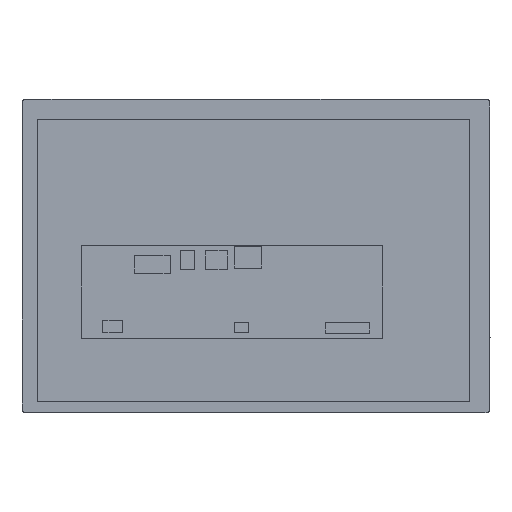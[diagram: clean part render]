
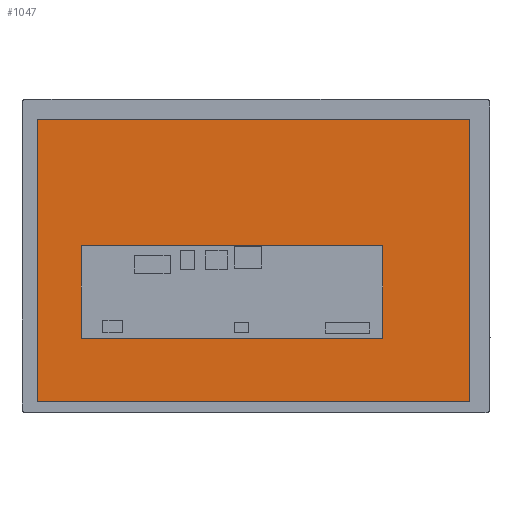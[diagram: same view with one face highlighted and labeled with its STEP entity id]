
A CAD part, top view. The second image highlights one B-rep face of the part: STEP entity #1047.
In plain terms, the highlighted planar face has unit normal (0, 0, 1).
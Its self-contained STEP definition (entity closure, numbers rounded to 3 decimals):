
#101=B_SPLINE_CURVE_WITH_KNOTS('',3,(#2857,#2858,#2859,#2860),
 .UNSPECIFIED.,.F.,.F.,(4,4),(0.,1.),.UNSPECIFIED.);
#103=B_SPLINE_CURVE_WITH_KNOTS('',3,(#2872,#2873,#2874,#2875),
 .UNSPECIFIED.,.F.,.F.,(4,4),(0.,1.),.UNSPECIFIED.);
#105=B_SPLINE_CURVE_WITH_KNOTS('',3,(#2884,#2885,#2886,#2887),
 .UNSPECIFIED.,.F.,.F.,(4,4),(0.,1.),.UNSPECIFIED.);
#107=B_SPLINE_CURVE_WITH_KNOTS('',3,(#2896,#2897,#2898,#2899),
 .UNSPECIFIED.,.F.,.F.,(4,4),(0.,1.),.UNSPECIFIED.);
#956=FACE_OUTER_BOUND('',#1241,.T.);
#1047=ADVANCED_FACE('',(#956),#1136,.F.);
#1136=PLANE('',#2308);
#1241=EDGE_LOOP('',(#1492,#1493,#1494,#1495));
#1492=ORIENTED_EDGE('',*,*,#1917,.T.);
#1493=ORIENTED_EDGE('',*,*,#1921,.T.);
#1494=ORIENTED_EDGE('',*,*,#1924,.T.);
#1495=ORIENTED_EDGE('',*,*,#1927,.T.);
#1754=VERTEX_POINT('',#2861);
#1755=VERTEX_POINT('',#2862);
#1758=VERTEX_POINT('',#2876);
#1760=VERTEX_POINT('',#2888);
#1917=EDGE_CURVE('',#1754,#1755,#101,.T.);
#1921=EDGE_CURVE('',#1755,#1758,#103,.T.);
#1924=EDGE_CURVE('',#1758,#1760,#105,.T.);
#1927=EDGE_CURVE('',#1760,#1754,#107,.T.);
#2308=AXIS2_PLACEMENT_3D('',#2906,#2538,#2539);
#2538=DIRECTION('',(0.,0.,-1.));
#2539=DIRECTION('',(-1.,0.,0.));
#2857=CARTESIAN_POINT('',(1544.762,94.076,-1.6));
#2858=CARTESIAN_POINT('',(1468.696,94.076,-1.6));
#2859=CARTESIAN_POINT('',(1392.629,94.076,-1.6));
#2860=CARTESIAN_POINT('',(1316.562,94.076,-1.6));
#2861=CARTESIAN_POINT('',(1544.762,94.076,-1.6));
#2862=CARTESIAN_POINT('',(1316.562,94.076,-1.6));
#2872=CARTESIAN_POINT('',(1316.562,94.076,-1.6));
#2873=CARTESIAN_POINT('',(1316.562,44.46,-1.6));
#2874=CARTESIAN_POINT('',(1316.562,-5.157,-1.6));
#2875=CARTESIAN_POINT('',(1316.562,-54.774,-1.6));
#2876=CARTESIAN_POINT('',(1316.562,-54.774,-1.6));
#2884=CARTESIAN_POINT('',(1316.562,-54.774,-1.6));
#2885=CARTESIAN_POINT('',(1392.629,-54.774,-1.6));
#2886=CARTESIAN_POINT('',(1468.696,-54.774,-1.6));
#2887=CARTESIAN_POINT('',(1544.762,-54.774,-1.6));
#2888=CARTESIAN_POINT('',(1544.762,-54.774,-1.6));
#2896=CARTESIAN_POINT('',(1544.762,-54.774,-1.6));
#2897=CARTESIAN_POINT('',(1544.762,-5.157,-1.6));
#2898=CARTESIAN_POINT('',(1544.762,44.46,-1.6));
#2899=CARTESIAN_POINT('',(1544.762,94.076,-1.6));
#2906=CARTESIAN_POINT('',(1430.662,94.076,-1.6));
